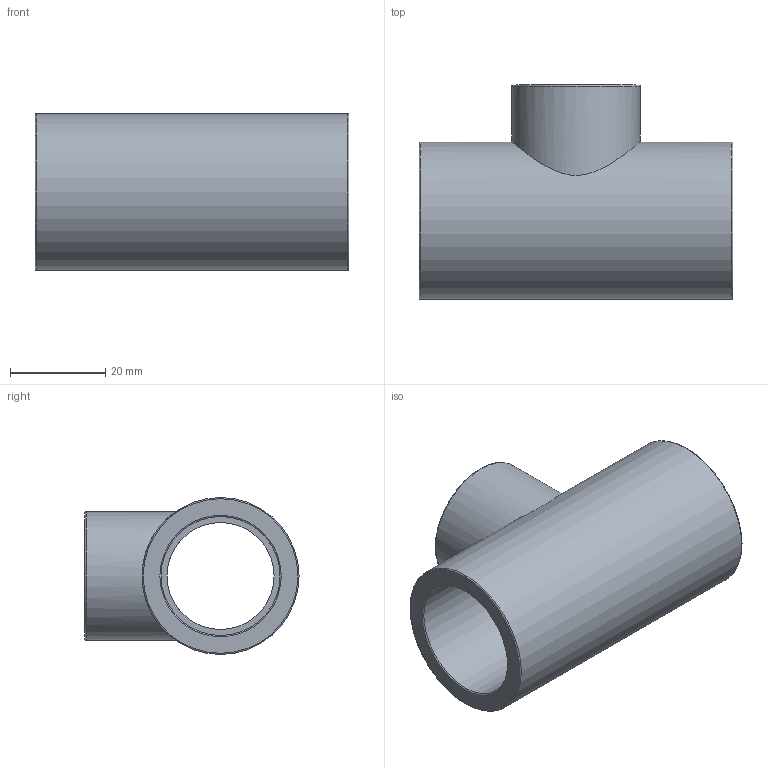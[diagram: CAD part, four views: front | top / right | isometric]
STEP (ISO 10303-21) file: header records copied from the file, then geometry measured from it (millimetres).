
FILE_DESCRIPTION(/* description */ ('PLASSON REDUCER TEE - CEMENT PVC 25-20-25'),/* implementation_level */ '2;1');
FILE_NAME(/* name */ 'C:\Dropbox\KIMPROJECTS-Inventor\99-16-3568-Processing\PVC Catalog 2017\051400\051400025020.ipt.stp',/* time_stamp */ '2017-12-07T16:00:06+02:00',/* author */ ('KIM'),/* organization */ (''),/* preprocessor_version */ 'ST-DEVELOPER v15.6',/* originating_system */ 'Autodesk Inventor 2015',/* authorisation */ '');
FILE_SCHEMA (('AUTOMOTIVE_DESIGN { 1 0 10303 214 3 1 1 }'));
Length unit declared in the file: millimetre
Products named in the file (1): 051400025020
Bounding box: 66 x 45 x 33 mm (x, y, z)
Volume: 28806.7 mm3; surface area: 14552.6 mm2
Topology: 1 solids, 1 shells, 19 faces, 39 edges, 24 vertices
Faces by surface type: cylinder 7, torus 6, plane 6
Full cylindrical faces by diameter (mm): 18 x1, 20 x1, 22.5 x1, 25 x2, 27 x1, 33 x1
Entity records: 510 total; most frequent: CARTESIAN_POINT 150, DIRECTION 76, EDGE_LOOP 40, ORIENTED_EDGE 40, AXIS2_PLACEMENT_3D 38, FACE_BOUND 21, VERTEX_POINT 20, EDGE_CURVE 20
